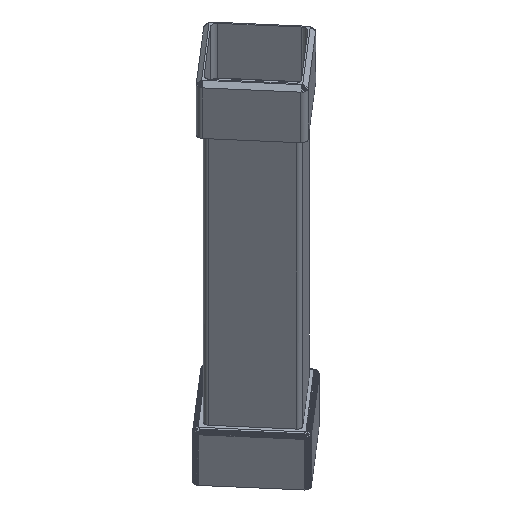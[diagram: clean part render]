
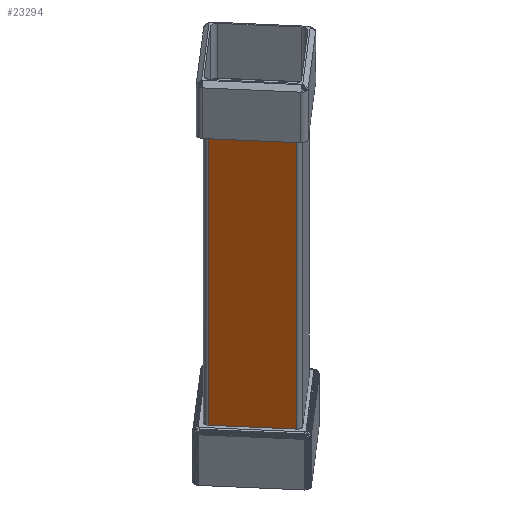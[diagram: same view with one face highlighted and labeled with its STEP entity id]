
A CAD part, isometric view. The second image highlights one B-rep face of the part: STEP entity #23294.
In plain terms, the highlighted planar face has unit normal (-0.758, -0.652, 0).
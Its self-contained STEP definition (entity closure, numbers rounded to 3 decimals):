
#4364 = PLANE('',#4365);
#4365 = AXIS2_PLACEMENT_3D('',#4366,#4367,#4368);
#4366 = CARTESIAN_POINT('',(-3.502,9.471,25.4)
  );
#4367 = DIRECTION('',(0.,0.,1.));
#4368 = DIRECTION('',(0.,1.,0.));
#7129 = VERTEX_POINT('',#7130);
#7130 = CARTESIAN_POINT('',(-0.849,6.577,
    25.4));
#7160 = CYLINDRICAL_SURFACE('',#7161,2.032);
#7161 = AXIS2_PLACEMENT_3D('',#7162,#7163,#7164);
#7162 = CARTESIAN_POINT('',(0.692,7.902,
    92.392));
#7163 = DIRECTION('',(0.,0.,1.));
#7164 = DIRECTION('',(0.075,0.997,-0.));
#7171 = EDGE_CURVE('',#7129,#7172,#7174,.T.);
#7172 = VERTEX_POINT('',#7173);
#7173 = CARTESIAN_POINT('',(-22.704,32.004,
    25.4));
#7174 = SURFACE_CURVE('',#7175,(#7179,#7186),.PCURVE_S1.);
#7175 = LINE('',#7176,#7177);
#7176 = CARTESIAN_POINT('',(-0.849,6.577,
    25.4));
#7177 = VECTOR('',#7178,1.);
#7178 = DIRECTION('',(-0.652,0.758,0.));
#7179 = PCURVE('',#4364,#7180);
#7180 = DEFINITIONAL_REPRESENTATION('',(#7181),#7185);
#7181 = LINE('',#7182,#7183);
#7182 = CARTESIAN_POINT('',(-2.894,-2.652));
#7183 = VECTOR('',#7184,1.);
#7184 = DIRECTION('',(0.758,0.652));
#7185 = ( GEOMETRIC_REPRESENTATION_CONTEXT(2) 
PARAMETRIC_REPRESENTATION_CONTEXT() REPRESENTATION_CONTEXT('2D SPACE',''
  ) );
#7186 = PCURVE('',#7187,#7192);
#7187 = PLANE('',#7188);
#7188 = AXIS2_PLACEMENT_3D('',#7189,#7190,#7191);
#7189 = CARTESIAN_POINT('',(-11.777,19.291,
    92.392));
#7190 = DIRECTION('',(0.758,0.652,0.)
  );
#7191 = DIRECTION('',(0.,0.,-1.));
#7192 = DEFINITIONAL_REPRESENTATION('',(#7193),#7197);
#7193 = LINE('',#7194,#7195);
#7194 = CARTESIAN_POINT('',(66.992,-16.764));
#7195 = VECTOR('',#7196,1.);
#7196 = DIRECTION('',(0.,1.));
#7197 = ( GEOMETRIC_REPRESENTATION_CONTEXT(2) 
PARAMETRIC_REPRESENTATION_CONTEXT() REPRESENTATION_CONTEXT('2D SPACE',''
  ) );
#7231 = CYLINDRICAL_SURFACE('',#7232,2.032);
#7232 = AXIS2_PLACEMENT_3D('',#7233,#7234,#7235);
#7233 = CARTESIAN_POINT('',(-21.163,33.328,
    92.392));
#7234 = DIRECTION('',(0.,0.,1.));
#7235 = DIRECTION('',(0.997,-0.075,0.));
#19545 = PLANE('',#19546);
#19546 = AXIS2_PLACEMENT_3D('',#19547,#19548,#19549);
#19547 = CARTESIAN_POINT('',(2.424,31.577,
    159.385));
#19548 = DIRECTION('',(0.,0.,1.));
#19549 = DIRECTION('',(0.,1.,0.));
#19988 = VERTEX_POINT('',#19989);
#19989 = CARTESIAN_POINT('',(-22.704,32.004,
    159.385));
#20025 = EDGE_CURVE('',#19988,#20026,#20028,.T.);
#20026 = VERTEX_POINT('',#20027);
#20027 = CARTESIAN_POINT('',(-0.849,6.577,
    159.385));
#20028 = SURFACE_CURVE('',#20029,(#20033,#20040),.PCURVE_S1.);
#20029 = LINE('',#20030,#20031);
#20030 = CARTESIAN_POINT('',(-22.704,32.004,
    159.385));
#20031 = VECTOR('',#20032,1.);
#20032 = DIRECTION('',(0.652,-0.758,0.));
#20033 = PCURVE('',#19545,#20034);
#20034 = DEFINITIONAL_REPRESENTATION('',(#20035),#20039);
#20035 = LINE('',#20036,#20037);
#20036 = CARTESIAN_POINT('',(0.427,25.128));
#20037 = VECTOR('',#20038,1.);
#20038 = DIRECTION('',(-0.758,-0.652));
#20039 = ( GEOMETRIC_REPRESENTATION_CONTEXT(2) 
PARAMETRIC_REPRESENTATION_CONTEXT() REPRESENTATION_CONTEXT('2D SPACE',''
  ) );
#20040 = PCURVE('',#7187,#20041);
#20041 = DEFINITIONAL_REPRESENTATION('',(#20042),#20046);
#20042 = LINE('',#20043,#20044);
#20043 = CARTESIAN_POINT('',(-66.992,16.764));
#20044 = VECTOR('',#20045,1.);
#20045 = DIRECTION('',(0.,-1.));
#20046 = ( GEOMETRIC_REPRESENTATION_CONTEXT(2) 
PARAMETRIC_REPRESENTATION_CONTEXT() REPRESENTATION_CONTEXT('2D SPACE',''
  ) );
#22730 = EDGE_CURVE('',#20026,#7129,#22731,.T.);
#22731 = SURFACE_CURVE('',#22732,(#22736,#22743),.PCURVE_S1.);
#22732 = LINE('',#22733,#22734);
#22733 = CARTESIAN_POINT('',(-0.849,6.577,
    159.385));
#22734 = VECTOR('',#22735,1.);
#22735 = DIRECTION('',(0.,0.,-1.));
#22736 = PCURVE('',#7160,#22737);
#22737 = DEFINITIONAL_REPRESENTATION('',(#22738),#22742);
#22738 = LINE('',#22739,#22740);
#22739 = CARTESIAN_POINT('',(2.356,66.992));
#22740 = VECTOR('',#22741,1.);
#22741 = DIRECTION('',(0.,-1.));
#22742 = ( GEOMETRIC_REPRESENTATION_CONTEXT(2) 
PARAMETRIC_REPRESENTATION_CONTEXT() REPRESENTATION_CONTEXT('2D SPACE',''
  ) );
#22743 = PCURVE('',#7187,#22744);
#22744 = DEFINITIONAL_REPRESENTATION('',(#22745),#22749);
#22745 = LINE('',#22746,#22747);
#22746 = CARTESIAN_POINT('',(-66.992,-16.764));
#22747 = VECTOR('',#22748,1.);
#22748 = DIRECTION('',(1.,0.));
#22749 = ( GEOMETRIC_REPRESENTATION_CONTEXT(2) 
PARAMETRIC_REPRESENTATION_CONTEXT() REPRESENTATION_CONTEXT('2D SPACE',''
  ) );
#23294 = ADVANCED_FACE('',(#23295),#7187,.F.);
#23295 = FACE_BOUND('',#23296,.T.);
#23296 = EDGE_LOOP('',(#23297,#23298,#23319,#23320));
#23297 = ORIENTED_EDGE('',*,*,#20025,.F.);
#23298 = ORIENTED_EDGE('',*,*,#23299,.T.);
#23299 = EDGE_CURVE('',#19988,#7172,#23300,.T.);
#23300 = SURFACE_CURVE('',#23301,(#23305,#23312),.PCURVE_S1.);
#23301 = LINE('',#23302,#23303);
#23302 = CARTESIAN_POINT('',(-22.704,32.004,
    159.385));
#23303 = VECTOR('',#23304,1.);
#23304 = DIRECTION('',(0.,0.,-1.));
#23305 = PCURVE('',#7187,#23306);
#23306 = DEFINITIONAL_REPRESENTATION('',(#23307),#23311);
#23307 = LINE('',#23308,#23309);
#23308 = CARTESIAN_POINT('',(-66.992,16.764));
#23309 = VECTOR('',#23310,1.);
#23310 = DIRECTION('',(1.,0.));
#23311 = ( GEOMETRIC_REPRESENTATION_CONTEXT(2) 
PARAMETRIC_REPRESENTATION_CONTEXT() REPRESENTATION_CONTEXT('2D SPACE',''
  ) );
#23312 = PCURVE('',#7231,#23313);
#23313 = DEFINITIONAL_REPRESENTATION('',(#23314),#23318);
#23314 = LINE('',#23315,#23316);
#23315 = CARTESIAN_POINT('',(3.927,66.992));
#23316 = VECTOR('',#23317,1.);
#23317 = DIRECTION('',(0.,-1.));
#23318 = ( GEOMETRIC_REPRESENTATION_CONTEXT(2) 
PARAMETRIC_REPRESENTATION_CONTEXT() REPRESENTATION_CONTEXT('2D SPACE',''
  ) );
#23319 = ORIENTED_EDGE('',*,*,#7171,.F.);
#23320 = ORIENTED_EDGE('',*,*,#22730,.F.);
